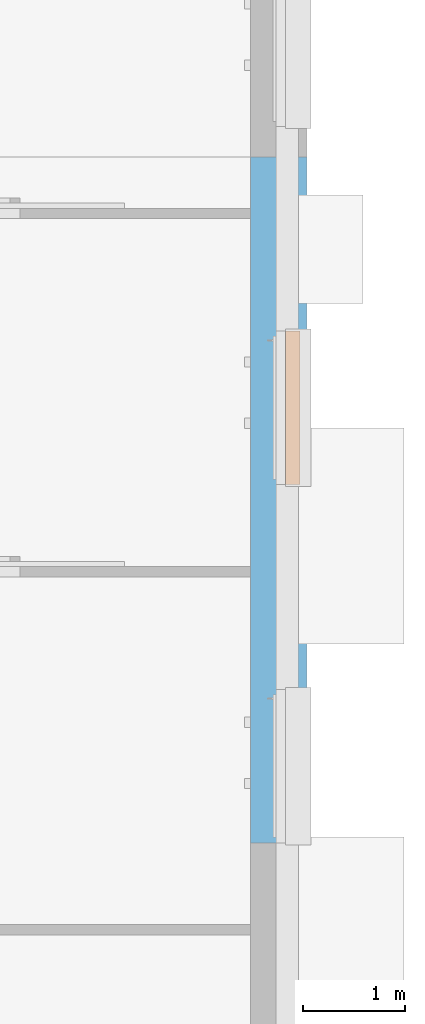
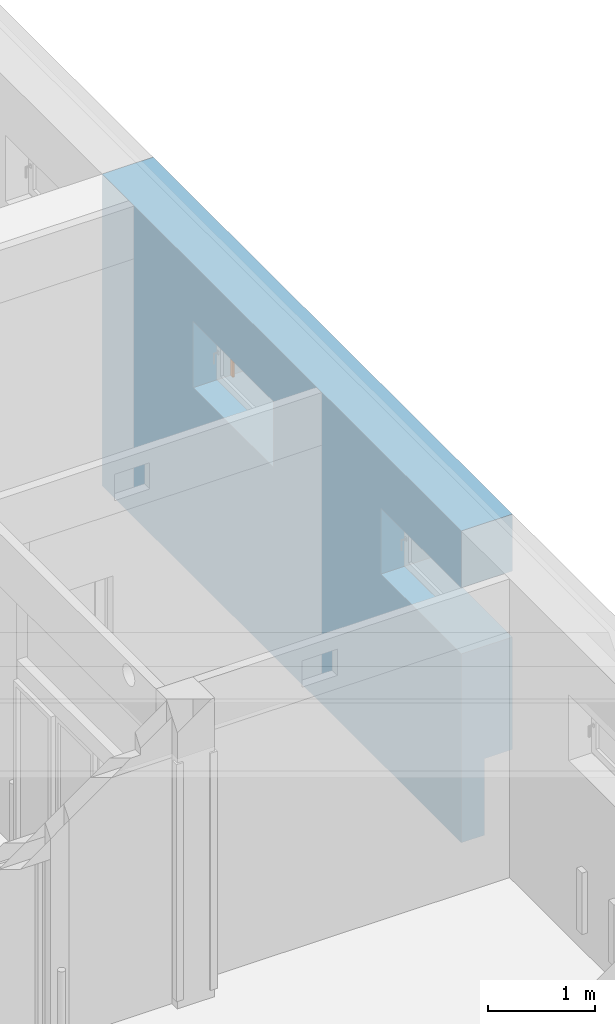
# One storey, part 113 of 140: 1 proxy, 2 openings, plus 1 element that does not belong to this part.
"""IFC4 building model written with IfcOpenShell, lengths in metres."""

from ifc_helpers import new_model, entity, si_unit, converted_unit, derived_unit, frame, frame_2d, origin, origin_with_axes, place, context, subcontext, project, spatial, polyline, rectangle, outline, extrude, clip, bounded_halfspace, faceted_brep, source, transform, mapped, material, layer, layer_set, layer_usage, element, fill, save


model = new_model("IFC4")

# Units and contexts
model_context = context("Model", 3, precision=1e-05, world=origin())
body_context = subcontext(model_context, "Body", "Model", "MODEL_VIEW")
ifc_project = project(units=[si_unit("LENGTHUNIT", "METRE"), si_unit("AREAUNIT", "SQUARE_METRE"), si_unit("VOLUMEUNIT", "CUBIC_METRE"), si_unit("MASSUNIT", "GRAM", prefix="KILO"), converted_unit("PLANEANGLEUNIT", "DEGREE", entity("IfcPlaneAngleMeasure", 0.0174532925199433), si_unit("PLANEANGLEUNIT", "RADIAN"), dimensions=[0, 0, 0, 0, 0, 0, 0]), derived_unit("THERMALTRANSMITTANCEUNIT", [(si_unit("POWERUNIT", "WATT"), 1), (si_unit("THERMODYNAMICTEMPERATUREUNIT", "KELVIN"), -1), (si_unit("LENGTHUNIT", "METRE"), -2)]), derived_unit("VOLUMETRICFLOWRATEUNIT", [(si_unit("LENGTHUNIT", "METRE"), 3), (converted_unit("TIMEUNIT", "hour", entity("IfcTimeMeasure", 3600.0), si_unit("TIMEUNIT", "SECOND"), dimensions=[0, 0, 1, 0, 0, 0, 0]), -1), (si_unit("LENGTHUNIT", "METRE"), -1)])], contexts=[model_context])

# Site, building, storey
site_placement = place(None, origin())
site = spatial("IfcSite", under=ifc_project, at=site_placement, Name="3. ASŘ", CompositionType="ELEMENT")
building_placement = place(site_placement, origin())
building = spatial("IfcBuilding", under=site, at=building_placement, Name="Pavilon C", CompositionType="ELEMENT")
storey_placement = place(building_placement, origin())
storey = spatial("IfcBuildingStorey", under=building, at=storey_placement, Name="Půdorys 1.NP", CompositionType="ELEMENT", Elevation=0.0)

# Wall, openings, proxy
ifc_material_1 = material(Name="ZELEZOBETONOVÁ KCE")
ifc_layer_1 = layer(ifc_material_1, 0.25)
ifc_material_2 = material(Name="MINERÁLNÍ VATA")
ifc_layer_2 = layer(ifc_material_2, 0.3)
ifc_layer_set = layer_set([ifc_layer_1, ifc_layer_2])
ifc_layer_usage = layer_usage(ifc_layer_set, "AXIS2", "POSITIVE", 0.0)
wall_placement = place(storey_placement, frame((63.55, 17.6, -0.15), z_axis=(0.0, 0.0, 1.0), x_axis=(0.0, -1.0, 0.0)))
wall = element("IfcWall", 1, at=wall_placement, inside=storey, material=ifc_layer_usage, Name="ZELEZOBETONOVÁ KCE", context=body_context, shape_type="Clipping", body=[
    clip(extrude(rectangle(XDim=6.7, YDim=0.55, at=frame_2d((3.35, 0.275), x_axis=(1.0, 0.0))), origin_with_axes(), (0.0, 0.0, 1.0), 3.55), bounded_halfspace(frame((3.35, 0.4, 0.87), z_axis=(1.69681847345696e-17, -3.78956125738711e-16, 1.0), x_axis=(0.0, -1.0, 0.0)), True, origin_with_axes(), polyline([(0.0, 0.55), (0.0, 0.249999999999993), (6.7, 0.249999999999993), (6.7, 0.55), (0.0, 0.55)]))),
])
opening_1_placement = place(wall_placement, frame((6.7, 0.25, 2.15), z_axis=(0.0, -1.0, 0.0), x_axis=(0.0, 0.0, 1.0)))
element("IfcOpeningElement", 2, at=opening_1_placement, cuts=wall, Name="Okenní otvor", ObjectType="Opening", context=body_context, shape_type="SweptSolid", body=[
    extrude(outline(polyline([(0.0, 1.5), (0.75, 1.5), (0.75, 0.0), (0.0, 0.0), (0.0, 1.5)])), origin_with_axes(), (0.0, 0.0, 1.0), 0.25),
    extrude(outline(polyline([(0.0, 1.5), (0.75, 1.5), (0.75, 0.0), (0.0, 0.0), (0.0, 1.5)])), frame((0.0, 0.0, -0.3), z_axis=(0.0, 0.0, 1.0), x_axis=(1.0, 0.0, 0.0)), (0.0, 0.0, 1.0), 0.3),
])
opening_2_placement = place(wall_placement, frame((3.2, 0.25, 2.15), z_axis=(0.0, -1.0, 0.0), x_axis=(0.0, 0.0, 1.0)))
opening_2 = element("IfcOpeningElement", 3, at=opening_2_placement, cuts=wall, Name="Okenní otvor", ObjectType="Opening", context=body_context, shape_type="SweptSolid", body=[
    extrude(outline(polyline([(0.0, 1.5), (0.75, 1.5), (0.75, 0.0), (0.0, 0.0), (0.0, 1.5)])), origin_with_axes(), (0.0, 0.0, 1.0), 0.25),
    extrude(outline(polyline([(0.0, 1.5), (0.75, 1.5), (0.75, 0.0), (0.0, 0.0), (0.0, 1.5)])), frame((0.0, 0.0, -0.3), z_axis=(0.0, 0.0, 1.0), x_axis=(1.0, 0.0, 0.0)), (0.0, 0.0, 1.0), 0.3),
])
shared_shape = source(origin_with_axes(), body_context, "Body", "Brep", [
    faceted_brep([(-3.63797880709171e-15, -0.231999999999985, 0.75), (-3.63797880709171e-15, -0.229999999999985, 0.75), (-3.63797880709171e-15, -0.229999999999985, 0.948), (-3.63797880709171e-15, -0.0939999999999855, 0.948), (-3.63797880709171e-15, -0.0939999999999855, 0.75), (-3.63797880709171e-15, -0.0919999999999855, 0.75), (-3.63797880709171e-15, -0.0919999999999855, 0.95), (-3.63797880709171e-15, -0.231999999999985, 0.95), (1.5, -0.229999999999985, 0.75), (1.5, -0.231999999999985, 0.75), (1.5, -0.231999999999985, 0.95), (1.5, -0.0919999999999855, 0.95), (1.5, -0.0919999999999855, 0.75), (1.5, -0.0939999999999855, 0.75), (1.5, -0.0939999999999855, 0.948), (1.5, -0.229999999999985, 0.948)], [[[0, 1, 2, 3, 4, 5, 6, 7]], [[8, 9, 10, 11, 12, 13, 14, 15]], [[1, 0, 9, 8]], [[2, 1, 8, 15]], [[3, 2, 15, 14]], [[4, 3, 14, 13]], [[5, 4, 13, 12]], [[6, 5, 12, 11]], [[7, 6, 11, 10]], [[0, 7, 10, 9]]], orient=[[False], [False], [False], [False], [False], [False], [False], [False], [False], [False]]),
    faceted_brep([(-3.63797880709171e-15, -0.229999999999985, 0.75), (-3.63797880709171e-15, -0.0939999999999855, 0.75), (-3.63797880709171e-15, -0.0939999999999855, 0.948), (-3.63797880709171e-15, -0.229999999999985, 0.948), (0.00199999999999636, -0.0939999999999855, 0.75), (0.00199999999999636, -0.229999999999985, 0.75), (0.00199999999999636, -0.229999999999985, 0.948), (0.00199999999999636, -0.0939999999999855, 0.948)], [[[0, 1, 2, 3]], [[4, 5, 6, 7]], [[1, 0, 5, 4]], [[2, 1, 4, 7]], [[3, 2, 7, 6]], [[0, 3, 6, 5]]], orient=[[False], [False], [False], [False], [False], [False]]),
    faceted_brep([(1.498, -0.229999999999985, 0.75), (1.498, -0.0939999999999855, 0.75), (1.498, -0.0939999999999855, 0.948), (1.498, -0.229999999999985, 0.948), (1.5, -0.0939999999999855, 0.75), (1.5, -0.229999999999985, 0.75), (1.5, -0.229999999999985, 0.948), (1.5, -0.0939999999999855, 0.948)], [[[0, 1, 2, 3]], [[4, 5, 6, 7]], [[1, 0, 5, 4]], [[2, 1, 4, 7]], [[3, 2, 7, 6]], [[0, 3, 6, 5]]], orient=[[False], [False], [False], [False], [False], [False]]),
    faceted_brep([(0.00199999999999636, -0.151999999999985, 0.0), (0.00199999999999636, -0.171999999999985, 0.0), (0.0419999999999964, -0.171999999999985, 0.0), (0.0419999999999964, -0.151999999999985, 0.0), (0.00199999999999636, -0.171999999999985, 0.769), (0.00199999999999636, -0.151999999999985, 0.769), (0.0419999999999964, -0.151999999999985, 0.769), (0.0419999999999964, -0.171999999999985, 0.769)], [[[0, 1, 2, 3]], [[4, 5, 6, 7]], [[1, 0, 5, 4]], [[2, 1, 4, 7]], [[3, 2, 7, 6]], [[0, 3, 6, 5]]], orient=[[False], [False], [False], [False], [False], [False]]),
    faceted_brep([(1.458, -0.151999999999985, 0.0), (1.458, -0.171999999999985, 0.0), (1.498, -0.171999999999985, 0.0), (1.498, -0.151999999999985, 0.0), (1.458, -0.171999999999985, 0.769), (1.458, -0.151999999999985, 0.769), (1.498, -0.151999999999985, 0.769), (1.498, -0.171999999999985, 0.769)], [[[0, 1, 2, 3]], [[4, 5, 6, 7]], [[1, 0, 5, 4]], [[2, 1, 4, 7]], [[3, 2, 7, 6]], [[0, 3, 6, 5]]], orient=[[False], [False], [False], [False], [False], [False]]),
    faceted_brep([(0.0419999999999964, -0.121999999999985, 0.6021), (0.0419999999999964, -0.201999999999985, 0.6021), (0.0419999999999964, -0.201999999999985, 0.5871), (0.0419999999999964, -0.121999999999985, 0.5871), (1.458, -0.201999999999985, 0.6021), (1.458, -0.121999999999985, 0.6021), (1.458, -0.121999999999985, 0.5871), (1.458, -0.201999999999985, 0.5871)], [[[0, 1, 2, 3]], [[4, 5, 6, 7]], [[1, 0, 5, 4]], [[2, 1, 4, 7]], [[3, 2, 7, 6]], [[0, 3, 6, 5]]], orient=[[False], [False], [False], [False], [False], [False]]),
    faceted_brep([(0.0419999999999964, -0.121999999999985, 0.6031), (0.0419999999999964, -0.201999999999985, 0.6031), (0.0419999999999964, -0.201999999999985, 0.6021), (0.0419999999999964, -0.121999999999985, 0.6021), (1.458, -0.201999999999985, 0.6031), (1.458, -0.121999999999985, 0.6031), (1.458, -0.121999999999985, 0.6021), (1.458, -0.201999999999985, 0.6021)], [[[0, 1, 2, 3]], [[4, 5, 6, 7]], [[1, 0, 5, 4]], [[2, 1, 4, 7]], [[3, 2, 7, 6]], [[0, 3, 6, 5]]], orient=[[False], [False], [False], [False], [False], [False]]),
    faceted_brep([(0.0419999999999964, -0.121999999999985, 0.6041), (0.0419999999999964, -0.201999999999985, 0.6041), (0.0419999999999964, -0.201999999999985, 0.6031), (0.0419999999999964, -0.121999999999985, 0.6031), (1.458, -0.201999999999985, 0.6041), (1.458, -0.121999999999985, 0.6041), (1.458, -0.121999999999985, 0.6031), (1.458, -0.201999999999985, 0.6031)], [[[0, 1, 2, 3]], [[4, 5, 6, 7]], [[1, 0, 5, 4]], [[2, 1, 4, 7]], [[3, 2, 7, 6]], [[0, 3, 6, 5]]], orient=[[False], [False], [False], [False], [False], [False]]),
    faceted_brep([(0.0419999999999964, -0.121999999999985, 0.6051), (0.0419999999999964, -0.201999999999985, 0.6051), (0.0419999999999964, -0.201999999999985, 0.6041), (0.0419999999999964, -0.121999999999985, 0.6041), (1.458, -0.201999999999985, 0.6051), (1.458, -0.121999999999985, 0.6051), (1.458, -0.121999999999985, 0.6041), (1.458, -0.201999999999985, 0.6041)], [[[0, 1, 2, 3]], [[4, 5, 6, 7]], [[1, 0, 5, 4]], [[2, 1, 4, 7]], [[3, 2, 7, 6]], [[0, 3, 6, 5]]], orient=[[False], [False], [False], [False], [False], [False]]),
    faceted_brep([(0.0419999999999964, -0.121999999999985, 0.6061), (0.0419999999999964, -0.201999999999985, 0.6061), (0.0419999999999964, -0.201999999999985, 0.6051), (0.0419999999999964, -0.121999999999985, 0.6051), (1.458, -0.201999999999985, 0.6061), (1.458, -0.121999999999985, 0.6061), (1.458, -0.121999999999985, 0.6051), (1.458, -0.201999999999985, 0.6051)], [[[0, 1, 2, 3]], [[4, 5, 6, 7]], [[1, 0, 5, 4]], [[2, 1, 4, 7]], [[3, 2, 7, 6]], [[0, 3, 6, 5]]], orient=[[False], [False], [False], [False], [False], [False]]),
    faceted_brep([(0.0419999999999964, -0.121999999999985, 0.6071), (0.0419999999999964, -0.201999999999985, 0.6071), (0.0419999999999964, -0.201999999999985, 0.6061), (0.0419999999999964, -0.121999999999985, 0.6061), (1.458, -0.201999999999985, 0.6071), (1.458, -0.121999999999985, 0.6071), (1.458, -0.121999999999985, 0.6061), (1.458, -0.201999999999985, 0.6061)], [[[0, 1, 2, 3]], [[4, 5, 6, 7]], [[1, 0, 5, 4]], [[2, 1, 4, 7]], [[3, 2, 7, 6]], [[0, 3, 6, 5]]], orient=[[False], [False], [False], [False], [False], [False]]),
    faceted_brep([(0.0419999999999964, -0.121999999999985, 0.6081), (0.0419999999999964, -0.201999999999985, 0.6081), (0.0419999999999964, -0.201999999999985, 0.6071), (0.0419999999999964, -0.121999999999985, 0.6071), (1.458, -0.201999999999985, 0.6081), (1.458, -0.121999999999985, 0.6081), (1.458, -0.121999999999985, 0.6071), (1.458, -0.201999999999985, 0.6071)], [[[0, 1, 2, 3]], [[4, 5, 6, 7]], [[1, 0, 5, 4]], [[2, 1, 4, 7]], [[3, 2, 7, 6]], [[0, 3, 6, 5]]], orient=[[False], [False], [False], [False], [False], [False]]),
    faceted_brep([(0.0419999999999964, -0.121999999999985, 0.6091), (0.0419999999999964, -0.201999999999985, 0.6091), (0.0419999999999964, -0.201999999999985, 0.6081), (0.0419999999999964, -0.121999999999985, 0.6081), (1.458, -0.201999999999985, 0.6091), (1.458, -0.121999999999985, 0.6091), (1.458, -0.121999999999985, 0.6081), (1.458, -0.201999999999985, 0.6081)], [[[0, 1, 2, 3]], [[4, 5, 6, 7]], [[1, 0, 5, 4]], [[2, 1, 4, 7]], [[3, 2, 7, 6]], [[0, 3, 6, 5]]], orient=[[False], [False], [False], [False], [False], [False]]),
    faceted_brep([(0.0419999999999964, -0.121999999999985, 0.6101), (0.0419999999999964, -0.201999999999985, 0.6101), (0.0419999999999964, -0.201999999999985, 0.6091), (0.0419999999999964, -0.121999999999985, 0.6091), (1.458, -0.201999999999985, 0.6101), (1.458, -0.121999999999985, 0.6101), (1.458, -0.121999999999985, 0.6091), (1.458, -0.201999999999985, 0.6091)], [[[0, 1, 2, 3]], [[4, 5, 6, 7]], [[1, 0, 5, 4]], [[2, 1, 4, 7]], [[3, 2, 7, 6]], [[0, 3, 6, 5]]], orient=[[False], [False], [False], [False], [False], [False]]),
    faceted_brep([(0.0419999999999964, -0.121999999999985, 0.6111), (0.0419999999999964, -0.201999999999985, 0.6111), (0.0419999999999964, -0.201999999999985, 0.6101), (0.0419999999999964, -0.121999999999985, 0.6101), (1.458, -0.201999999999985, 0.6111), (1.458, -0.121999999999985, 0.6111), (1.458, -0.121999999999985, 0.6101), (1.458, -0.201999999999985, 0.6101)], [[[0, 1, 2, 3]], [[4, 5, 6, 7]], [[1, 0, 5, 4]], [[2, 1, 4, 7]], [[3, 2, 7, 6]], [[0, 3, 6, 5]]], orient=[[False], [False], [False], [False], [False], [False]]),
    faceted_brep([(0.0419999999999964, -0.121999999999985, 0.6121), (0.0419999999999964, -0.201999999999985, 0.6121), (0.0419999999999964, -0.201999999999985, 0.6111), (0.0419999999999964, -0.121999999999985, 0.6111), (1.458, -0.201999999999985, 0.6121), (1.458, -0.121999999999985, 0.6121), (1.458, -0.121999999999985, 0.6111), (1.458, -0.201999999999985, 0.6111)], [[[0, 1, 2, 3]], [[4, 5, 6, 7]], [[1, 0, 5, 4]], [[2, 1, 4, 7]], [[3, 2, 7, 6]], [[0, 3, 6, 5]]], orient=[[False], [False], [False], [False], [False], [False]]),
    faceted_brep([(0.0419999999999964, -0.121999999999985, 0.6131), (0.0419999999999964, -0.201999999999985, 0.6131), (0.0419999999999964, -0.201999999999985, 0.6121), (0.0419999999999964, -0.121999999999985, 0.6121), (1.458, -0.201999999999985, 0.6131), (1.458, -0.121999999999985, 0.6131), (1.458, -0.121999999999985, 0.6121), (1.458, -0.201999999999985, 0.6121)], [[[0, 1, 2, 3]], [[4, 5, 6, 7]], [[1, 0, 5, 4]], [[2, 1, 4, 7]], [[3, 2, 7, 6]], [[0, 3, 6, 5]]], orient=[[False], [False], [False], [False], [False], [False]]),
    faceted_brep([(0.0419999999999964, -0.121999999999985, 0.6141), (0.0419999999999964, -0.201999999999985, 0.6141), (0.0419999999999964, -0.201999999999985, 0.6131), (0.0419999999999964, -0.121999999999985, 0.6131), (1.458, -0.201999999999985, 0.6141), (1.458, -0.121999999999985, 0.6141), (1.458, -0.121999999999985, 0.6131), (1.458, -0.201999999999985, 0.6131)], [[[0, 1, 2, 3]], [[4, 5, 6, 7]], [[1, 0, 5, 4]], [[2, 1, 4, 7]], [[3, 2, 7, 6]], [[0, 3, 6, 5]]], orient=[[False], [False], [False], [False], [False], [False]]),
    faceted_brep([(0.0419999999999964, -0.121999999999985, 0.6151), (0.0419999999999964, -0.201999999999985, 0.6151), (0.0419999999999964, -0.201999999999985, 0.6141), (0.0419999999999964, -0.121999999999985, 0.6141), (1.458, -0.201999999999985, 0.6151), (1.458, -0.121999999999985, 0.6151), (1.458, -0.121999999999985, 0.6141), (1.458, -0.201999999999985, 0.6141)], [[[0, 1, 2, 3]], [[4, 5, 6, 7]], [[1, 0, 5, 4]], [[2, 1, 4, 7]], [[3, 2, 7, 6]], [[0, 3, 6, 5]]], orient=[[False], [False], [False], [False], [False], [False]]),
    faceted_brep([(0.0419999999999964, -0.121999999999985, 0.6161), (0.0419999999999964, -0.201999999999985, 0.6161), (0.0419999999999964, -0.201999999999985, 0.6151), (0.0419999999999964, -0.121999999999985, 0.6151), (1.458, -0.201999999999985, 0.6161), (1.458, -0.121999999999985, 0.6161), (1.458, -0.121999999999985, 0.6151), (1.458, -0.201999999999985, 0.6151)], [[[0, 1, 2, 3]], [[4, 5, 6, 7]], [[1, 0, 5, 4]], [[2, 1, 4, 7]], [[3, 2, 7, 6]], [[0, 3, 6, 5]]], orient=[[False], [False], [False], [False], [False], [False]]),
    faceted_brep([(0.0419999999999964, -0.123299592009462, 0.645125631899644), (0.0419999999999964, -0.200941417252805, 0.625844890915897), (0.0419999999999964, -0.200700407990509, 0.624874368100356), (0.0419999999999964, -0.123058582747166, 0.644155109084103), (1.458, -0.200941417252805, 0.625844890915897), (1.458, -0.123299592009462, 0.645125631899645), (1.458, -0.123058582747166, 0.644155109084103), (1.458, -0.200700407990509, 0.624874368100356)], [[[0, 1, 2, 3]], [[4, 5, 6, 7]], [[1, 0, 5, 4]], [[2, 1, 4, 7]], [[3, 2, 7, 6]], [[0, 3, 6, 5]]], orient=[[False], [False], [False], [False], [False], [False]]),
    faceted_brep([(0.0419999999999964, -0.127608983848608, 0.700433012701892), (0.0419999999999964, -0.196891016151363, 0.660433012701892), (0.0419999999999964, -0.196391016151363, 0.659566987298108), (0.0419999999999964, -0.127108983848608, 0.699566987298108), (1.458, -0.196891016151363, 0.660433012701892), (1.458, -0.127608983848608, 0.700433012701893), (1.458, -0.127108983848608, 0.699566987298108), (1.458, -0.196391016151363, 0.659566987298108)], [[[0, 1, 2, 3]], [[4, 5, 6, 7]], [[1, 0, 5, 4]], [[2, 1, 4, 7]], [[3, 2, 7, 6]], [[0, 3, 6, 5]]], orient=[[False], [False], [False], [False], [False], [False]]),
    faceted_brep([(0.0419999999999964, -0.127608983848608, 0.745433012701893), (0.0419999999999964, -0.196891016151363, 0.705433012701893), (0.0419999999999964, -0.196391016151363, 0.704566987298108), (0.0419999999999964, -0.127108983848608, 0.744566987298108), (1.458, -0.196891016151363, 0.705433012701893), (1.458, -0.127608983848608, 0.745433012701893), (1.458, -0.127108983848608, 0.744566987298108), (1.458, -0.196391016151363, 0.704566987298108)], [[[0, 1, 2, 3]], [[4, 5, 6, 7]], [[1, 0, 5, 4]], [[2, 1, 4, 7]], [[3, 2, 7, 6]], [[0, 3, 6, 5]]], orient=[[False], [False], [False], [False], [False], [False]]),
])
proxy_placement = place(opening_2_placement, frame((0.0, 0.0, 0.0), z_axis=(1.0, 0.0, 0.0), x_axis=(0.0, 1.0, 0.0)))
proxy = element("IfcBuildingElementProxy", 4, at=proxy_placement, inside=storey, Name="Žaluzie", context=body_context, shape_type="MappedRepresentation", body=[
    mapped(shared_shape, transform((0.0, 0.0, 0.0), x_axis=(1.0, 0.0, 0.0), y_axis=(0.0, 1.0, 0.0), z_axis=(0.0, 0.0, 1.0), scale=1.0)),
])
fill(opening_2, proxy)

save(model, "model.ifc")
